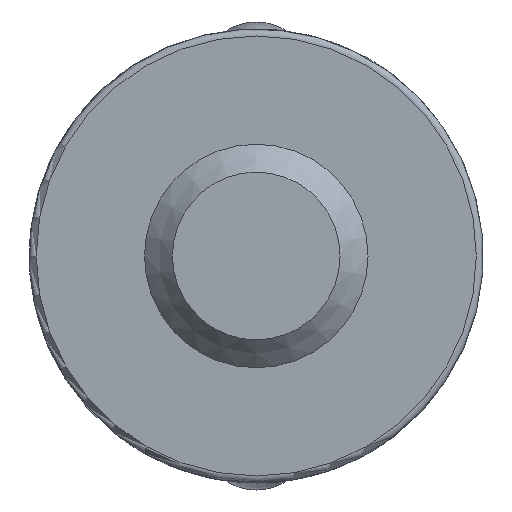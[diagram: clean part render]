
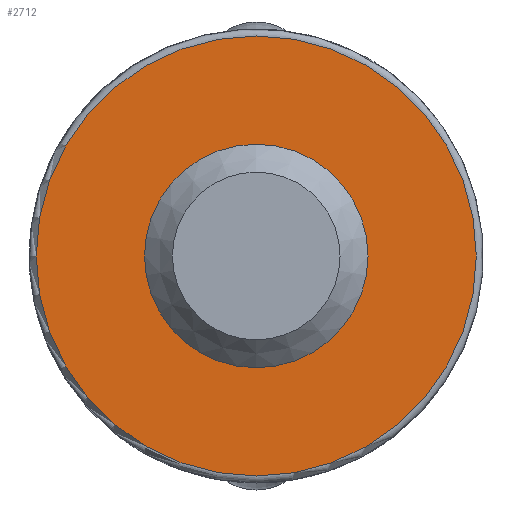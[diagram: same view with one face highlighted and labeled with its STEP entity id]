
A CAD part, front view. The second image highlights one B-rep face of the part: STEP entity #2712.
In plain terms, the highlighted planar face has unit normal (0, -1, 0).
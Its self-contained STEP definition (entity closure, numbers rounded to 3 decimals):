
#195=FACE_BOUND('',#4432,.T.);
#196=FACE_BOUND('',#4433,.T.);
#646=CIRCLE('',#13170,31.15);
#647=CIRCLE('',#13171,63.);
#2712=ADVANCED_FACE('',(#195,#196),#3068,.T.);
#3068=PLANE('',#13172);
#4432=EDGE_LOOP('',(#7494));
#4433=EDGE_LOOP('',(#7495));
#7494=ORIENTED_EDGE('',*,*,#11104,.T.);
#7495=ORIENTED_EDGE('',*,*,#11105,.T.);
#9448=VERTEX_POINT('',#41087);
#9449=VERTEX_POINT('',#41089);
#11104=EDGE_CURVE('',#9448,#9448,#646,.T.);
#11105=EDGE_CURVE('',#9449,#9449,#647,.T.);
#13170=AXIS2_PLACEMENT_3D('',#41086,#14744,#14745);
#13171=AXIS2_PLACEMENT_3D('',#41088,#14746,#14747);
#13172=AXIS2_PLACEMENT_3D('',#41090,#14748,#14749);
#14744=DIRECTION('',(0.,1.,0.));
#14745=DIRECTION('',(0.,0.,-1.));
#14746=DIRECTION('',(0.,-1.,0.));
#14747=DIRECTION('',(0.,0.,-1.));
#14748=DIRECTION('',(0.,-1.,0.));
#14749=DIRECTION('',(0.,0.,-1.));
#41086=CARTESIAN_POINT('',(0.,-109.5,0.));
#41087=CARTESIAN_POINT('',(0.,-109.5,-31.15));
#41088=CARTESIAN_POINT('',(0.,-109.5,0.));
#41089=CARTESIAN_POINT('',(0.,-109.5,-63.));
#41090=CARTESIAN_POINT('',(0.,-109.5,0.));
